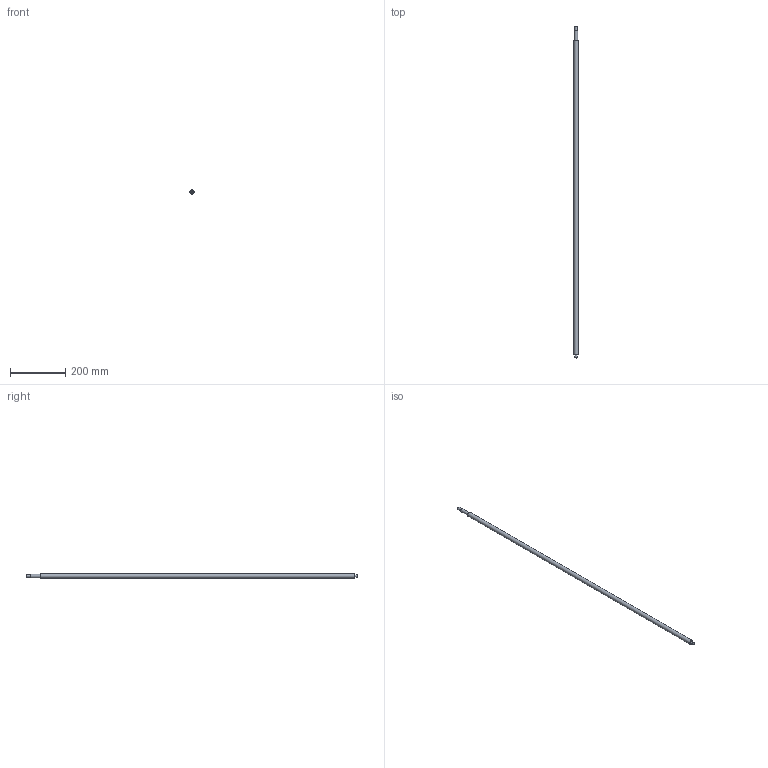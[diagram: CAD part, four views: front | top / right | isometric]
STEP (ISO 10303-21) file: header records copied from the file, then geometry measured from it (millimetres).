
FILE_DESCRIPTION(/* description */ (''),/* implementation_level */ '2;1');
FILE_NAME(/* name */ 'C:\Users\David\Desktop\stepFiles\Profilfuehrung\KUS1605x1200.stp',/* time_stamp */ '2018-06-24T15:08:47+02:00',/* author */ ('David'),/* organization */ (''),/* preprocessor_version */ 'ST-DEVELOPER v17',/* originating_system */ 'Autodesk Inventor 2019',/* authorisation */ '');
FILE_SCHEMA (('AUTOMOTIVE_DESIGN { 1 0 10303 214 3 1 1 }'));
Length unit declared in the file: millimetre
Products named in the file (1): SFU1605xvariabel
Bounding box: 16 x 1200 x 16 mm (x, y, z)
Volume: 234643.4 mm3; surface area: 59732.3 mm2
Topology: 1 solids, 1 shells, 15 faces, 34 edges, 26 vertices
Faces by surface type: plane 7, cylinder 6, cone 2
Full cylindrical faces by diameter (mm): 9.6 x1, 10 x3, 12 x1, 16 x1
Entity records: 493 total; most frequent: DIRECTION 92, CARTESIAN_POINT 76, ORIENTED_EDGE 68, AXIS2_PLACEMENT_3D 42, EDGE_CURVE 34, CIRCLE 26, VERTEX_POINT 26, EDGE_LOOP 20
